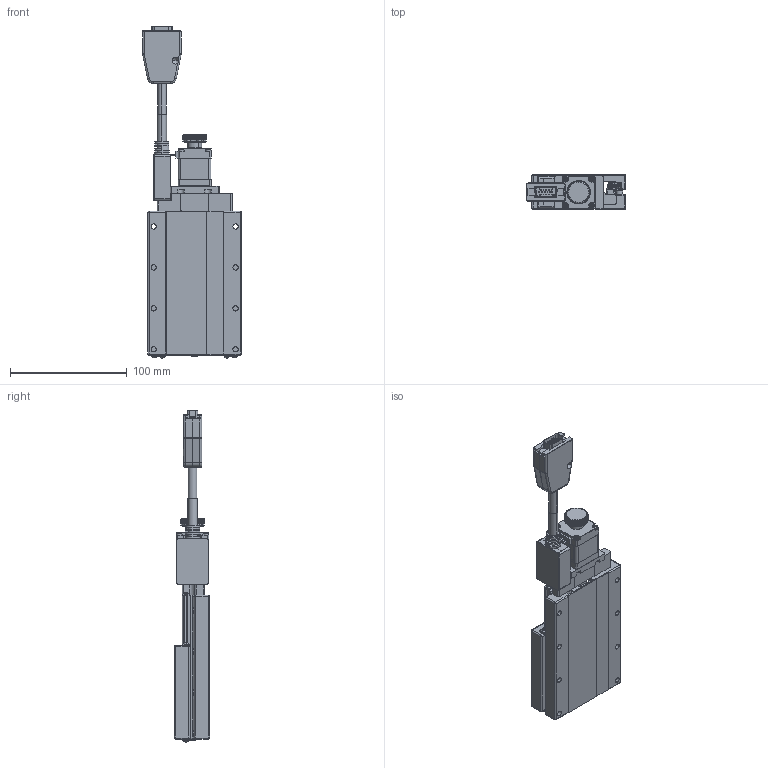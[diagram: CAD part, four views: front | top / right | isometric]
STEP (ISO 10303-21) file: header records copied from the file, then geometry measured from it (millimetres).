
FILE_DESCRIPTION (( 'STEP AP203' ), '1' );
FILE_NAME ('CXS8050-S-官網用.STEP', '2022-11-10T07:59:56', ( '' ), ( '' ), 'SwSTEP 2.0', 'SolidWorks 2019', '' );
FILE_SCHEMA (( 'CONFIG_CONTROL_DESIGN' ));
Length unit declared in the file: millimetre
Products named in the file (3): Group1^CXS8050-S-官網用_GMT; CXS8050-S-官網用; Group2^CXS8050-S-官網用_GMT
Assembly tree (2 placements, depth 2):
  CXS8050-S-官網用
    Group1^CXS8050-S-官網用_GMT
    Group2^CXS8050-S-官網用_GMT
Bounding box: 84.5 x 30 x 283.87 mm (x, y, z)
Volume: 51084.1 mm3; surface area: 88568.4 mm2
Topology: 1 solids, 4 shells, 3120 faces, 8320 edges, 5295 vertices
Faces by surface type: plane 1684, cylinder 693, bspline 297, torus 206, cone 196, sphere 44
Entity records: 112487 total; most frequent: CARTESIAN_POINT 36801, ORIENTED_EDGE 16524, DIRECTION 14626, EDGE_CURVE 8262, VERTEX_POINT 5295, AXIS2_PLACEMENT_3D 5018, VECTOR 4590, LINE 4590
